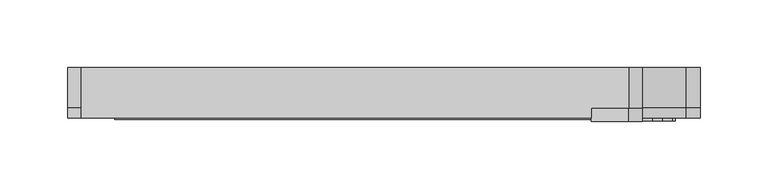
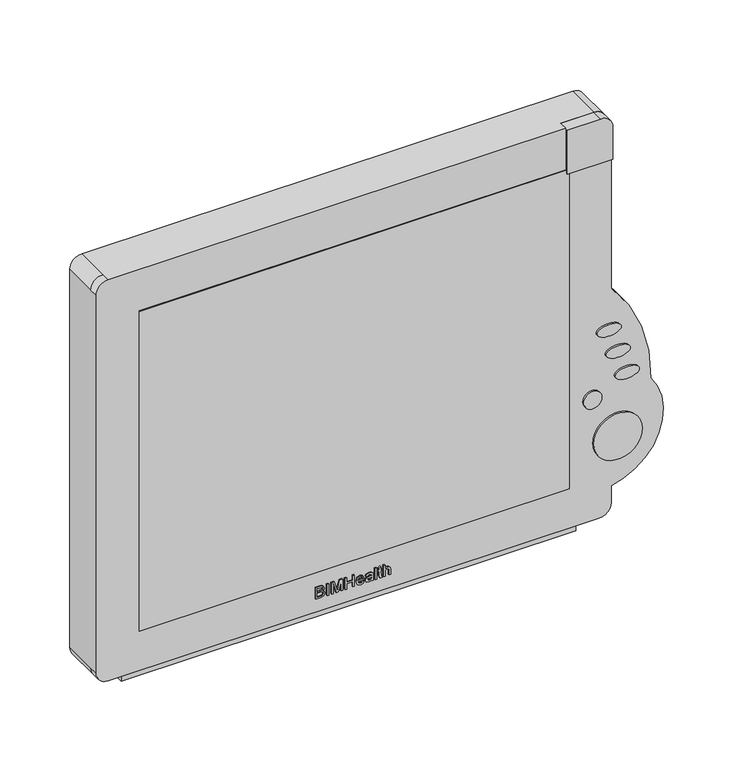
"""IFC4 building model written with IfcOpenShell, lengths in millimetres: proxy geometry, BIMHealth-Monitor_Intellivue-LOD2A-v1 : BIMHealth-Monitor_Intellivue-LOD2A-v1."""

from ifc_helpers import new_model, si_unit, point, frame, frame_2d, origin, place, context, project, spatial, polyline, circle_curve, ellipse_curve, trimmed, segment, composite_curve, outline, extrude, source, transform, mapped, element, save
from ifc_brep_helpers import plane_surface, cylinder_surface, extruded_surface, advanced_brep


def generic_models_a71c04e4(model_context):
    return source(origin(), model_context, "Body", "SolidModel", [
        extrude(outline(polyline([(597.4298034, 180.768278), (597.4298034, 184.4966434), (597.5992746, 186.0747684), (598.0992746, 187.1456818), (599.0415823, 187.8632299), (600.3648996, 188.1528934), (601.8961496, 187.7286145), (602.8144188, 186.5158741), (603.685813, 187.5146722), (604.8360534, 187.8452011), (606.0956688, 187.4521722), (606.9862938, 186.3656337), (607.2759573, 184.5254895), (607.2759573, 180.768278), (597.4298034, 180.768278)]), holes=[polyline([(603.2759573, 181.9990472), (606.045188, 181.9990472), (606.045188, 184.0759703), (605.9165823, 185.6577011), (605.4418227, 186.3668357), (604.638938, 186.6144318), (603.8372553, 186.3488068), (603.3817265, 185.5591434), (603.2759573, 184.2466434), (603.2759573, 181.9990472)]), polyline([(598.6605727, 181.9990472), (602.045188, 181.9990472), (602.045188, 184.4028934), (601.8805246, 185.9233261), (601.3096111, 186.6865472), (600.3528803, 186.9221241), (598.9766784, 186.2093837), (598.7086496, 185.4365472), (598.6605727, 184.5230857), (598.6605727, 181.9990472)])]), frame((0.0, -5.1168748, 0.0), z_axis=(0.0, 1.0, 0.0), x_axis=(0.0, 0.0, 1.0)), (0.0, 0.0, 1.0), 1.0),
        extrude(outline(polyline([(191.2298164, -5.1168748), (189.9990472, -5.1168748), (189.9990472, -4.1168748), (191.2298164, -4.1168748), (191.2298164, -5.1168748)])), frame((0.0, 0.0, 597.4298034), z_axis=(0.0, 0.0, 1.0), x_axis=(1.0, 0.0, 0.0)), (0.0, 0.0, 1.0), 9.8461538),
        extrude(outline(polyline([(597.4298034, 193.6913549), (597.4298034, 194.9221241), (606.045188, 194.9221241), (597.4298034, 197.3980857), (597.4298034, 199.0639511), (606.045188, 201.5375087), (597.4298034, 201.5375087), (597.4298034, 202.768278), (607.2759573, 202.768278), (607.2759573, 200.6504895), (600.4562457, 198.6697203), (598.8865342, 198.2298164), (600.3360534, 197.8211626), (607.2759573, 195.8019318), (607.2759573, 193.6913549), (597.4298034, 193.6913549)])), frame((0.0, -5.1168748, 0.0), z_axis=(0.0, 1.0, 0.0), x_axis=(0.0, 0.0, 1.0)), (0.0, 0.0, 1.0), 1.0),
        extrude(outline(polyline([(597.4298034, 204.9221241), (597.4298034, 206.1528934), (602.045188, 206.1528934), (602.045188, 211.3836626), (597.4298034, 211.3836626), (597.4298034, 212.6144318), (607.2759573, 212.6144318), (607.2759573, 211.3836626), (603.2759573, 211.3836626), (603.2759573, 206.1528934), (607.2759573, 206.1528934), (607.2759573, 204.9221241), (597.4298034, 204.9221241)])), frame((0.0, -5.1168748, 0.0), z_axis=(0.0, 1.0, 0.0), x_axis=(0.0, 0.0, 1.0)), (0.0, 0.0, 1.0), 1.0),
        extrude(outline(polyline([(599.5836496, 219.6769318), (598.763938, 218.8836626), (598.5067265, 217.6769318), (599.062015, 216.0915953), (600.6605727, 215.3836626), (600.9923034, 220.9221241), (603.812015, 219.9882299), (604.8144188, 217.5831818), (603.8096111, 215.1072203), (600.9850919, 214.1528934), (598.2507169, 215.0976049), (597.2759573, 217.6528934), (597.8408611, 219.7550568), (599.4298034, 220.8836626), (599.5836496, 219.6769318)]), holes=[polyline([(601.8913419, 215.3836626), (603.123313, 216.0627491), (603.5836496, 217.5783741), (603.0067265, 219.1985664), (601.8913419, 219.6913549), (601.8913419, 215.3836626)])]), frame((0.0, -5.1168748, 0.0), z_axis=(0.0, 1.0, 0.0), x_axis=(0.0, 0.0, 1.0)), (0.0, 0.0, 1.0), 1.0),
        extrude(outline(polyline([(598.3528803, 226.768278), (597.4298034, 227.0759703), (597.4298034, 228.3067395), (598.4646592, 228.0615472), (600.6028803, 227.9990472), (602.1341303, 227.9990472), (603.2110534, 227.9389511), (604.04639, 227.5615472), (604.5956688, 226.7189991), (604.8144188, 225.2274126), (604.5668227, 223.6036145), (603.8624957, 222.5314991), (602.6605727, 221.9990472), (602.5067265, 223.2298164), (603.3468707, 223.8235664), (603.5836496, 225.0687587), (603.2278803, 226.4293357), (602.045188, 226.7610664), (601.6221111, 224.6264511), (601.437015, 223.5615472), (601.0331688, 222.6997684), (600.326438, 222.080778), (599.3528803, 221.8452011), (597.8600919, 222.4689991), (597.2759573, 224.2562587), (597.5187457, 225.5747684), (598.3528803, 226.768278)]), holes=[polyline([(600.64014, 226.7646722), (599.513938, 226.5663549), (598.8011977, 225.7634703), (598.5067265, 224.518278), (600.2374957, 223.7238068), (600.437015, 224.7827011), (600.64014, 226.7646722)])]), frame((0.0, -5.1168748, 0.0), z_axis=(0.0, 1.0, 0.0), x_axis=(0.0, 0.0, 1.0)), (0.0, 0.0, 1.0), 1.0),
        extrude(outline(polyline([(230.9221241, -5.1168748), (229.6913549, -5.1168748), (229.6913549, -4.1168748), (230.9221241, -4.1168748), (230.9221241, -5.1168748)])), frame((0.0, 0.0, 597.4298034), z_axis=(0.0, 0.0, 1.0), x_axis=(1.0, 0.0, 0.0)), (0.0, 0.0, 1.0), 9.8461538),
        extrude(outline(polyline([(598.95264, 234.768278), (603.4298034, 234.1528934), (603.4298034, 235.3836626), (604.6605727, 235.3836626), (604.6605727, 234.1528934), (607.1413419, 234.1528934), (606.4177842, 232.9221241), (604.6605727, 232.9221241), (604.6605727, 231.9990472), (603.4298034, 231.9990472), (603.4298034, 232.9221241), (599.4129765, 232.9221241), (597.4802842, 233.5855857), (597.2759573, 234.6168357), (597.3937457, 235.5375087), (598.95264, 234.768278)])), frame((0.0, -5.1168748, 0.0), z_axis=(0.0, 1.0, 0.0), x_axis=(0.0, 0.0, 1.0)), (0.0, 0.0, 1.0), 1.0),
        extrude(outline(polyline([(597.4298034, 236.6144318), (597.4298034, 237.8452011), (601.2711496, 237.8452011), (602.5668227, 238.0459222), (603.3096111, 238.7189991), (603.5836496, 239.7274126), (603.1773996, 240.8379895), (601.8793227, 241.2298164), (597.4298034, 241.2298164), (597.4298034, 242.4605857), (602.0067265, 242.4605857), (603.624515, 242.2081818), (604.498313, 241.3692395), (604.8144188, 239.987028), (603.655765, 237.8452011), (607.2759573, 237.8452011), (607.2759573, 236.6144318), (597.4298034, 236.6144318)])), frame((0.0, -5.1168748, 0.0), z_axis=(0.0, 1.0, 0.0), x_axis=(0.0, 0.0, 1.0)), (0.0, 0.0, 1.0), 1.0),
        advanced_brep(
        [(387.5, -4.1168748, 935.3787109), (10.0, -4.1168748, 935.3787109), (0.0, -4.1168748, 925.3787109), (0.0, -4.1168748, 595.3787109), (10.0, -4.1168748, 585.3787109), (415.0, -4.1168748, 585.3787109), (425.0, -4.1168748, 595.3787109), (425.0, -4.1168748, 610.3787109), (457.5822566, -4.1168748, 693.3174208), (425.0, -4.1168748, 782.836435), (425.0, -4.1168748, 896.9178008), (390.0, -4.1168748, 896.9178008), (390.0, -4.1168748, 620.3787109), (35.0, -4.1168748, 620.3787109), (35.0, -4.1168748, 899.4178008), (387.5, -4.1168748, 899.4178008), (387.5, 3.3831252, 935.3787109), (415.0, 3.3831252, 935.3787109), (415.0, 33.3831252, 935.3787109), (10.0, 33.3831252, 935.3787109), (10.0, 3.3831252, 935.3787109), (0.0, 3.3831252, 925.3787109), (0.0, 33.3831252, 925.3787109), (0.0, 33.3831252, 595.3787109), (0.0, 3.3831252, 595.3787109), (10.0, 3.3831252, 585.3787109), (10.0, 33.3831252, 585.3787109), (415.0, 33.3831252, 585.3787109), (415.0, 3.3831252, 585.3787109), (425.0, 3.3831252, 595.3787109), (425.0, 33.3831252, 595.3787109), (425.0, 33.3831252, 610.3787109), (425.0, 3.3831252, 610.3787109), (457.5822566, 3.3831252, 693.3174208), (425.0, 3.3831252, 782.836435), (425.0, 33.3831252, 782.836435), (425.0, 33.3831252, 925.3787109), (425.0, 3.3831252, 925.3787109), (425.0, 3.3831252, 896.9178008), (390.0, 3.3831252, 896.9178008), (390.0, 3.3831252, 620.3787109), (35.0, 3.3831252, 620.3787109), (35.0, 3.3831252, 899.4178008), (387.5, 3.3831252, 899.4178008), (457.5822566, 33.3831252, 693.3174208)],
        [
            (0, 1),
            (1, 2, circle_curve(frame((10.0, -4.1168748, 925.3787109), z_axis=(0.0, -1.0, 0.0), x_axis=(1.0, 0.0, 0.0)), 10.0)),
            (2, 3),
            (3, 4, circle_curve(frame((10.0, -4.1168748, 595.3787109), z_axis=(0.0, -1.0, 0.0), x_axis=(1.0, 0.0, 0.0)), 10.0)),
            (4, 5),
            (5, 6, circle_curve(frame((415.0, -4.1168748, 595.3787109), z_axis=(0.0, -1.0, 0.0), x_axis=(1.0, 0.0, 0.0)), 10.0)),
            (6, 7),
            (7, 8, circle_curve(frame((415.8876171, -4.1168748, 661.8277692), z_axis=(0.0, -1.0, 0.0), x_axis=(1.0, 0.0, 0.0)), 52.2497954)),
            (8, 9, circle_curve(frame((331.1314932, -4.1168748, 697.9820997), z_axis=(0.0, -1.0, 0.0), x_axis=(1.0, 0.0, 0.0)), 126.5367724)),
            (9, 10),
            (10, 11),
            (11, 12),
            (12, 13),
            (13, 14),
            (14, 15),
            (15, 0),
            (0, 16),
            (16, 17),
            (17, 18),
            (18, 19),
            (19, 20),
            (20, 1),
            (20, 21, circle_curve(frame((10.0, 3.3831252, 925.3787109), z_axis=(0.0, -1.0, 0.0), x_axis=(1.0, 0.0, 0.0)), 10.0)),
            (21, 2),
            (21, 22),
            (22, 23),
            (23, 24),
            (24, 3),
            (24, 25, circle_curve(frame((10.0, 3.3831252, 595.3787109), z_axis=(0.0, -1.0, 0.0), x_axis=(1.0, 0.0, 0.0)), 10.0)),
            (25, 4),
            (25, 26),
            (26, 27),
            (27, 28),
            (28, 5),
            (28, 29, circle_curve(frame((415.0, 3.3831252, 595.3787109), z_axis=(0.0, -1.0, 0.0), x_axis=(1.0, 0.0, 0.0)), 10.0)),
            (29, 6),
            (29, 30),
            (30, 31),
            (31, 32),
            (32, 7),
            (32, 33, circle_curve(frame((415.8876171, 3.3831252, 661.8277692), z_axis=(0.0, -1.0, 0.0), x_axis=(1.0, 0.0, 0.0)), 52.2497954)),
            (33, 8),
            (33, 34, circle_curve(frame((331.1314932, 3.3831252, 697.9820997), z_axis=(0.0, -1.0, 0.0), x_axis=(1.0, 0.0, 0.0)), 126.5367724)),
            (34, 9),
            (34, 35),
            (35, 36),
            (36, 37),
            (37, 38),
            (38, 10),
            (11, 39),
            (39, 40),
            (40, 12),
            (40, 41),
            (41, 13),
            (41, 42),
            (42, 14),
            (42, 43),
            (43, 15),
            (38, 39),
            (43, 16),
            (37, 17, circle_curve(frame((415.0, 3.3831252, 925.3787109), z_axis=(0.0, -1.0, 0.0), x_axis=(1.0, 0.0, 0.0)), 10.0)),
            (18, 36, circle_curve(frame((415.0, 33.3831252, 925.3787109), z_axis=(0.0, 1.0, 0.0), x_axis=(1.0, 0.0, 0.0)), 10.0)),
            (35, 44, circle_curve(frame((331.1314932, 33.3831252, 697.9820997), z_axis=(0.0, 1.0, 0.0), x_axis=(1.0, 0.0, 0.0)), 126.5367724)),
            (44, 31, circle_curve(frame((415.8876171, 33.3831252, 661.8277692), z_axis=(0.0, 1.0, 0.0), x_axis=(1.0, 0.0, 0.0)), 52.2497954)),
            (30, 27, circle_curve(frame((415.0, 33.3831252, 595.3787109), z_axis=(0.0, 1.0, 0.0), x_axis=(1.0, 0.0, 0.0)), 10.0)),
            (26, 23, circle_curve(frame((10.0, 33.3831252, 595.3787109), z_axis=(0.0, 1.0, 0.0), x_axis=(1.0, 0.0, 0.0)), 10.0)),
            (22, 19, circle_curve(frame((10.0, 33.3831252, 925.3787109), z_axis=(0.0, 1.0, 0.0), x_axis=(1.0, 0.0, 0.0)), 10.0)),
            (44, 33),
        ],
        [
            plane_surface(frame((0.0, -4.1168748, 935.3787109), z_axis=(0.0, -1.0, 0.0), x_axis=(-1.0, 0.0, 0.0))),
            plane_surface(frame((387.5, -4.1168748, 935.3787109), z_axis=(0.0, 0.0, 1.0), x_axis=(0.0, 1.0, 0.0))),
            cylinder_surface(frame((10.0, 3.3831252, 925.3787109), z_axis=(0.0, -1.0, 0.0), x_axis=(1.0, 0.0, 0.0)), 10.0),
            plane_surface(frame((0.0, -4.1168748, 925.3787109), z_axis=(-1.0, 0.0, 0.0), x_axis=(0.0, 1.0, 0.0))),
            cylinder_surface(frame((10.0, 3.3831252, 595.3787109), z_axis=(0.0, -1.0, 0.0), x_axis=(1.0, 0.0, 0.0)), 10.0),
            plane_surface(frame((10.0, -4.1168748, 585.3787109), z_axis=(0.0, 0.0, -1.0), x_axis=(0.0, 1.0, 0.0))),
            cylinder_surface(frame((415.0, 3.3831252, 595.3787109), z_axis=(0.0, -1.0, 0.0), x_axis=(1.0, 0.0, 0.0)), 10.0),
            plane_surface(frame((425.0, -4.1168748, 595.3787109), z_axis=(1.0, 0.0, 0.0), x_axis=(0.0, 1.0, 0.0))),
            cylinder_surface(frame((415.8876171, 3.3831252, 661.8277692), z_axis=(0.0, -1.0, 0.0), x_axis=(1.0, 0.0, 0.0)), 52.2497954),
            cylinder_surface(frame((331.1314932, 3.3831252, 697.9820997), z_axis=(0.0, -1.0, 0.0), x_axis=(1.0, 0.0, 0.0)), 126.5367724),
            plane_surface(frame((425.0, -4.1168748, 782.836435), z_axis=(1.0, 0.0, 0.0), x_axis=(0.0, 1.0, 0.0))),
            plane_surface(frame((390.0, -4.1168748, 896.9178008), z_axis=(-1.0, 0.0, 0.0), x_axis=(0.0, 1.0, 0.0))),
            plane_surface(frame((390.0, -4.1168748, 620.3787109), z_axis=(0.0, 0.0, 1.0), x_axis=(0.0, 1.0, 0.0))),
            plane_surface(frame((35.0, -4.1168748, 620.3787109), z_axis=(1.0, 0.0, 0.0), x_axis=(0.0, 1.0, 0.0))),
            plane_surface(frame((35.0, -4.1168748, 899.4178008), z_axis=(0.0, 0.0, -1.0), x_axis=(0.0, 1.0, 0.0))),
            plane_surface(frame((425.0, -4.1168748, 896.9178008), z_axis=(0.0, 0.0, 1.0), x_axis=(0.0, 1.0, 0.0))),
            plane_surface(frame((387.5, -4.1168748, 899.4178008), z_axis=(1.0, 0.0, 0.0), x_axis=(0.0, 1.0, 0.0))),
            plane_surface(frame((0.0, 3.3831252, 935.3787109), z_axis=(0.0, -1.0, 0.0), x_axis=(-1.0, 0.0, 0.0))),
            plane_surface(frame((0.0, 33.3831252, 935.3787109), z_axis=(0.0, 1.0, 0.0), x_axis=(1.0, 0.0, 0.0))),
            cylinder_surface(frame((10.0, 33.3831252, 925.3787109), z_axis=(0.0, -1.0, 0.0), x_axis=(1.0, 0.0, 0.0)), 10.0),
            cylinder_surface(frame((10.0, 33.3831252, 595.3787109), z_axis=(0.0, -1.0, 0.0), x_axis=(1.0, 0.0, 0.0)), 10.0),
            cylinder_surface(frame((415.0, 33.3831252, 595.3787109), z_axis=(0.0, -1.0, 0.0), x_axis=(1.0, 0.0, 0.0)), 10.0),
            cylinder_surface(frame((415.8876171, 33.3831252, 661.8277692), z_axis=(0.0, -1.0, 0.0), x_axis=(1.0, 0.0, 0.0)), 52.2497954),
            cylinder_surface(frame((331.1314932, 33.3831252, 697.9820997), z_axis=(0.0, -1.0, 0.0), x_axis=(1.0, 0.0, 0.0)), 126.5367724),
            cylinder_surface(frame((415.0, 33.3831252, 925.3787109), z_axis=(0.0, -1.0, 0.0), x_axis=(1.0, 0.0, 0.0)), 10.0),
        ],
        [
            (0, [[1, 2, 3, 4, 5, 6, 7, 8, 9, 10, 11, 12, 13, 14, 15, 16]]),
            (1, [[-1, 17, 18, 19, 20, 21, 22]]),
            (2, [[-2, -22, 23, 24]]),
            (3, [[-3, -24, 25, 26, 27, 28]]),
            (4, [[-4, -28, 29, 30]]),
            (5, [[-5, -30, 31, 32, 33, 34]]),
            (6, [[-6, -34, 35, 36]]),
            (7, [[-7, -36, 37, 38, 39, 40]]),
            (8, [[-8, -40, 41, 42]]),
            (9, [[-9, -42, 43, 44]]),
            (10, [[-10, -44, 45, 46, 47, 48, 49]]),
            (11, [[-12, 50, 51, 52]]),
            (12, [[-13, -52, 53, 54]]),
            (13, [[-14, -54, 55, 56]]),
            (14, [[-15, -56, 57, 58]]),
            (15, [[-11, -49, 59, -50]]),
            (16, [[-16, -58, 60, -17]]),
            (17, [[61, -18, -60, -57, -55, -53, -51, -59, -48]]),
            (18, [[62, -46, 63, 64, -38, 65, -32, 66, -26, 67, -20]]),
            (19, [[-67, -25, -23, -21]]),
            (20, [[-66, -31, -29, -27]]),
            (21, [[-65, -37, -35, -33]]),
            (22, [[-64, 68, -41, -39]]),
            (23, [[-63, -45, -43, -68]]),
            (24, [[-61, -47, -62, -19]]),
        ],
    ),
        extrude(outline(polyline([(400.0, 3.3831252), (25.0, 3.3831252), (25.0, 33.3831252), (400.0, 33.3831252), (400.0, 3.3831252)])), frame((0.0, 0.0, 575.3787109), z_axis=(0.0, 0.0, 1.0), x_axis=(1.0, 0.0, 0.0)), (0.0, 0.0, 1.0), 10.0),
        extrude(outline(polyline([(390.0, -5.1168748), (35.0, -5.1168748), (35.0, -4.1168748), (390.0, -4.1168748), (390.0, -5.1168748)])), frame((0.0, 0.0, 620.3787109), z_axis=(0.0, 0.0, 1.0), x_axis=(1.0, 0.0, 0.0)), (0.0, 0.0, 1.0), 279.0390898),
        advanced_brep(
        [(432.3146689, -6.1168748, 748.1311848), (412.3146689, -6.1168748, 748.1311848), (432.3146689, -4.1168748, 748.1311848), (412.3146689, -4.1168748, 748.1311848)],
        [
            (0, 1, ellipse_curve(frame((422.3146689, -6.1168748, 748.1311848), z_axis=(0.0, -1.0, 0.0), x_axis=(-1.0, 0.0, 0.0)), 10.0, 5.0)),
            (1, 0, ellipse_curve(frame((422.3146689, -6.1168748, 748.1311848), z_axis=(0.0, -1.0, 0.0), x_axis=(-1.0, 0.0, 0.0)), 10.0, 5.0)),
            (2, 3, ellipse_curve(frame((422.3146689, -4.1168748, 748.1311848), z_axis=(0.0, 1.0, 0.0), x_axis=(-1.0, 0.0, 0.0)), 10.0, 5.0)),
            (3, 2, ellipse_curve(frame((422.3146689, -4.1168748, 748.1311848), z_axis=(0.0, 1.0, 0.0), x_axis=(-1.0, 0.0, 0.0)), 10.0, 5.0)),
            (0, 2),
            (3, 1),
        ],
        [
            plane_surface(frame((412.3146689, -6.1168748, 748.1311848), z_axis=(0.0, -1.0, 0.0), x_axis=(0.0, 0.0, -1.0))),
            plane_surface(frame((412.3146689, -4.1168748, 748.1311848), z_axis=(0.0, 1.0, 0.0), x_axis=(0.0, 0.0, 1.0))),
            extruded_surface(trimmed(ellipse_curve(frame((422.3146689, -2.1168748, 748.1311848), z_axis=(0.0, -1.0, 0.0), x_axis=(-1.0, 0.0, 0.0)), 10.0, 5.0), [point((432.3146689, -2.1168748, 748.1311848))], [point((412.3146689, -2.1168748, 748.1311848))], True, "CARTESIAN"), (0.0, -1.9999999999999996, 0.0), 1.9999999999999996),
            extruded_surface(trimmed(ellipse_curve(frame((422.3146689, -2.1168748, 748.1311848), z_axis=(0.0, -1.0, 0.0), x_axis=(-1.0, 0.0, 0.0)), 10.0, 5.0), [point((412.3146689, -2.1168748, 748.1311848))], [point((432.3146689, -2.1168748, 748.1311848))], True, "CARTESIAN"), (0.0, -1.9999999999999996, 0.0), 1.9999999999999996),
        ],
        [
            (0, [[1, 2]]),
            (1, [[3, 4]]),
            (2, [[-1, 5, -4, 6]]),
            (3, [[-2, -6, -3, -5]]),
        ],
    ),
        advanced_brep(
        [(439.8146689, -6.1168748, 727.1504227), (419.8146689, -6.1168748, 727.1504227), (439.8146689, -4.1168748, 727.1504227), (419.8146689, -4.1168748, 727.1504227)],
        [
            (0, 1, ellipse_curve(frame((429.8146689, -6.1168748, 727.1504227), z_axis=(0.0, -1.0, 0.0), x_axis=(-1.0, 0.0, 0.0)), 10.0, 5.0)),
            (1, 0, ellipse_curve(frame((429.8146689, -6.1168748, 727.1504227), z_axis=(0.0, -1.0, 0.0), x_axis=(-1.0, 0.0, 0.0)), 10.0, 5.0)),
            (2, 3, ellipse_curve(frame((429.8146689, -4.1168748, 727.1504227), z_axis=(0.0, 1.0, 0.0), x_axis=(-1.0, 0.0, 0.0)), 10.0, 5.0)),
            (3, 2, ellipse_curve(frame((429.8146689, -4.1168748, 727.1504227), z_axis=(0.0, 1.0, 0.0), x_axis=(-1.0, 0.0, 0.0)), 10.0, 5.0)),
            (0, 2),
            (3, 1),
        ],
        [
            plane_surface(frame((419.8146689, -6.1168748, 727.1504227), z_axis=(0.0, -1.0, 0.0), x_axis=(0.0, 0.0, -1.0))),
            plane_surface(frame((419.8146689, -4.1168748, 727.1504227), z_axis=(0.0, 1.0, 0.0), x_axis=(0.0, 0.0, 1.0))),
            extruded_surface(trimmed(ellipse_curve(frame((429.8146689, -2.1168748, 727.1504227), z_axis=(0.0, -1.0, 0.0), x_axis=(-1.0, 0.0, 0.0)), 10.0, 5.0), [point((439.8146689, -2.1168748, 727.1504227))], [point((419.8146689, -2.1168748, 727.1504227))], True, "CARTESIAN"), (0.0, -1.9999999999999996, 0.0), 1.9999999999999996),
            extruded_surface(trimmed(ellipse_curve(frame((429.8146689, -2.1168748, 727.1504227), z_axis=(0.0, -1.0, 0.0), x_axis=(-1.0, 0.0, 0.0)), 10.0, 5.0), [point((419.8146689, -2.1168748, 727.1504227))], [point((439.8146689, -2.1168748, 727.1504227))], True, "CARTESIAN"), (0.0, -1.9999999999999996, 0.0), 1.9999999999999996),
        ],
        [
            (0, [[1, 2]]),
            (1, [[3, 4]]),
            (2, [[-1, 5, -4, 6]]),
            (3, [[-2, -6, -3, -5]]),
        ],
    ),
        advanced_brep(
        [(447.3146689, -6.1168748, 706.1696606), (427.3146689, -6.1168748, 706.1696606), (447.3146689, -4.1168748, 706.1696606), (427.3146689, -4.1168748, 706.1696606)],
        [
            (0, 1, ellipse_curve(frame((437.3146689, -6.1168748, 706.1696606), z_axis=(0.0, -1.0, 0.0), x_axis=(-1.0, 0.0, 0.0)), 10.0, 5.0)),
            (1, 0, ellipse_curve(frame((437.3146689, -6.1168748, 706.1696606), z_axis=(0.0, -1.0, 0.0), x_axis=(-1.0, 0.0, 0.0)), 10.0, 5.0)),
            (2, 3, ellipse_curve(frame((437.3146689, -4.1168748, 706.1696606), z_axis=(0.0, 1.0, 0.0), x_axis=(-1.0, 0.0, 0.0)), 10.0, 5.0)),
            (3, 2, ellipse_curve(frame((437.3146689, -4.1168748, 706.1696606), z_axis=(0.0, 1.0, 0.0), x_axis=(-1.0, 0.0, 0.0)), 10.0, 5.0)),
            (0, 2),
            (3, 1),
        ],
        [
            plane_surface(frame((427.3146689, -6.1168748, 706.1696606), z_axis=(0.0, -1.0, 0.0), x_axis=(0.0, 0.0, -1.0))),
            plane_surface(frame((427.3146689, -4.1168748, 706.1696606), z_axis=(0.0, 1.0, 0.0), x_axis=(0.0, 0.0, 1.0))),
            extruded_surface(trimmed(ellipse_curve(frame((437.3146689, -2.1168748, 706.1696606), z_axis=(0.0, -1.0, 0.0), x_axis=(-1.0, 0.0, 0.0)), 10.0, 5.0), [point((447.3146689, -2.1168748, 706.1696606))], [point((427.3146689, -2.1168748, 706.1696606))], True, "CARTESIAN"), (0.0, -1.9999999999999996, 0.0), 1.9999999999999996),
            extruded_surface(trimmed(ellipse_curve(frame((437.3146689, -2.1168748, 706.1696606), z_axis=(0.0, -1.0, 0.0), x_axis=(-1.0, 0.0, 0.0)), 10.0, 5.0), [point((427.3146689, -2.1168748, 706.1696606))], [point((447.3146689, -2.1168748, 706.1696606))], True, "CARTESIAN"), (0.0, -1.9999999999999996, 0.0), 1.9999999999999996),
        ],
        [
            (0, [[1, 2]]),
            (1, [[3, 4]]),
            (2, [[-1, 5, -4, 6]]),
            (3, [[-2, -6, -3, -5]]),
        ],
    ),
        extrude(outline(composite_curve([segment(trimmed(circle_curve(frame_2d((653.0933783, 429.5240835)), 20.0), [point((653.0933783, 409.5240835))], [point((653.0933783, 449.5240835))], False, "CARTESIAN"), True, "CONTINUOUS"), segment(trimmed(circle_curve(frame_2d((653.0933783, 429.5240835)), 20.0), [point((653.0933783, 449.5240835))], [point((653.0933783, 409.5240835))], False, "CARTESIAN"), True, "CONTINUOUS")], self_intersect=False)), frame((0.0, -6.1168748, 0.0), z_axis=(0.0, 1.0, 0.0), x_axis=(0.0, 0.0, 1.0)), (0.0, 0.0, 1.0), 2.0),
        extrude(outline(composite_curve([segment(trimmed(circle_curve(frame_2d((691.8697589, 408.8471491)), 7.5), [point((691.8697589, 401.3471491))], [point((691.8697589, 416.3471491))], False, "CARTESIAN"), True, "CONTINUOUS"), segment(trimmed(circle_curve(frame_2d((691.8697589, 408.8471491)), 7.5), [point((691.8697589, 416.3471491))], [point((691.8697589, 401.3471491))], False, "CARTESIAN"), True, "CONTINUOUS")], self_intersect=False)), frame((0.0, -6.1168748, 0.0), z_axis=(0.0, 1.0, 0.0), x_axis=(0.0, 0.0, 1.0)), (0.0, 0.0, 1.0), 2.0),
        extrude(outline(composite_curve([segment(polyline([(896.9178008, 387.5), (896.9178008, 425.0), (925.3787109, 425.0)]), True, "CONTINUOUS"), segment(trimmed(circle_curve(frame_2d((925.3787109, 415.0)), 10.0), [point((925.3787109, 425.0))], [point((935.3787109, 415.0))], False, "CARTESIAN"), True, "CONTINUOUS"), segment(polyline([(935.3787109, 415.0), (935.3787109, 387.5), (896.9178008, 387.5)]), True, "CONTINUOUS")], self_intersect=False)), frame((0.0, -6.6168748, 0.0), z_axis=(0.0, 1.0, 0.0), x_axis=(0.0, 0.0, 1.0)), (0.0, 0.0, 1.0), 10.0),
    ])


if __name__ == "__main__":
    model = new_model("IFC4")
    model_context = context("Model", 3, world=origin())
    ifc_project = project(units=[si_unit("LENGTHUNIT", "METRE", prefix="MILLI")], contexts=[model_context])
    site = spatial("IfcSite", under=ifc_project)
    building = spatial("IfcBuilding", under=site)
    placement = place(None, origin())
    generic_models_shape = generic_models_a71c04e4(model_context)
    element("IfcBuildingElementProxy", 1, Name="BIMHealth-Monitor_Intellivue-LOD2A-v1 : BIMHealth-Monitor_Intellivue-LOD2A-v1", ObjectType="BIMHealth-Monitor_Intellivue-LOD2A-v1 : BIMHealth-Monitor_Intellivue-LOD2A-v1", at=placement, inside=building, context=model_context, shape_type="MappedRepresentation", body=[
        mapped(generic_models_shape, transform((0.0, 0.0, 0.0), x_axis=(1.0, 0.0, 0.0), y_axis=(0.0, 1.0, 0.0), z_axis=(0.0, 0.0, 1.0))),
    ])
    save(model, "model.ifc")
